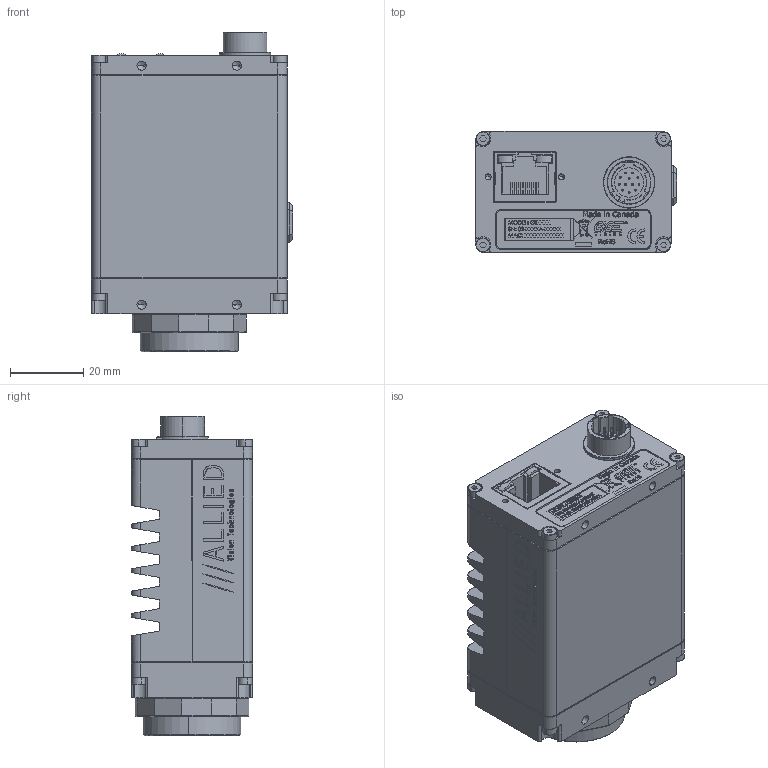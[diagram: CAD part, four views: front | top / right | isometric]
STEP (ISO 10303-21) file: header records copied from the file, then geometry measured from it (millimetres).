
FILE_DESCRIPTION (( 'STEP AP214' ), '1' );
FILE_NAME ('GT2000C CAMERA ASSY.STEP', '2013-08-01T18:08:00', ( '' ), ( '' ), 'SwSTEP 2.0', 'SolidWorks 2013', '' );
FILE_SCHEMA (( 'AUTOMOTIVE_DESIGN' ));
Length unit declared in the file: millimetre
Products named in the file (26): GT2000 FRONT ASSY_100219A-GT2000C FRONT ASSY; 260034-HIROSE HR10A-10R-12PB NUT; GT2000C CAMERA ASSY; 110003AC-CV CMOUNT RING; 140061-SCREW SKT CAP M2x8 SS; 110157A-GT CCD GASKET SF; 260034-HIROSE HR10A-10R-12PB; CONN_KOBICONN_163-157J-E; 440002-IR CUT FILTER 22MM DIA; GT TOP COVER_110159A-GT TOP COVER SHORT; CMOSIS CMV2000 BODY; GT BOT COVER_110158A-GT BOT COVER SHORT; CMOSIS CMV2000 WINDOW; CONN_AMPHENOL_RJHSE-5481; GT BODY ASSY_100193A-GT BODY ASSY SLOW; 200130B-GT CONTROL SLOW; 110054B-A IR FILTER SUPPORT; 220197-CMOSIS CMV2000-2E5C1PP; 260034-HIROSE HR10A-10R-12PB WASHER; 100097B - IR FILTER ASSEMBLY 0.75 INCH; 100191A-GT BACK ASSY; LABEL PRINTOUT; 110031A-B EC-CCD LOCKING RING; 740144A-GT SERIES LABEL; 110153A-GT BACK PLATE; 110154A-GT FRONT PLATE SF
Assembly tree (32 placements, depth 4):
  GT2000C CAMERA ASSY
    GT2000 FRONT ASSY_100219A-GT2000C FRONT ASSY
      220197-CMOSIS CMV2000-2E5C1PP
        CMOSIS CMV2000 WINDOW
        CMOSIS CMV2000 BODY
      100097B - IR FILTER ASSEMBLY 0.75 INCH
        440002-IR CUT FILTER 22MM DIA
        110054B-A IR FILTER SUPPORT
      110031A-B EC-CCD LOCKING RING
      110154A-GT FRONT PLATE SF
      110157A-GT CCD GASKET SF
      110003AC-CV CMOUNT RING
    GT BODY ASSY_100193A-GT BODY ASSY SLOW
      200130B-GT CONTROL SLOW
        CONN_KOBICONN_163-157J-E
        CONN_AMPHENOL_RJHSE-5481
      100191A-GT BACK ASSY
        260034-HIROSE HR10A-10R-12PB WASHER
        260034-HIROSE HR10A-10R-12PB NUT
        110153A-GT BACK PLATE
        260034-HIROSE HR10A-10R-12PB
      140061-SCREW SKT CAP M2x8 SS  x4
      GT TOP COVER_110159A-GT TOP COVER SHORT
      GT BOT COVER_110158A-GT BOT COVER SHORT
    140061-SCREW SKT CAP M2x8 SS  x4
    740144A-GT SERIES LABEL
    LABEL PRINTOUT
Bounding box: 54.84 x 33.02 x 87.12 mm (x, y, z)
Volume: 63935.5 mm3; surface area: 53926.8 mm2
Topology: 43 solids, 43 shells, 4143 faces, 10534 edges, 6850 vertices
Faces by surface type: plane 2298, cylinder 944, bspline 641, cone 260
Entity records: 189272 total; most frequent: CARTESIAN_POINT 49625, ORIENTED_EDGE 20276, DIRECTION 17739, EDGE_CURVE 10138, VECTOR 6843, LINE 6843, VERTEX_POINT 6668, AXIS2_PLACEMENT_3D 5448
